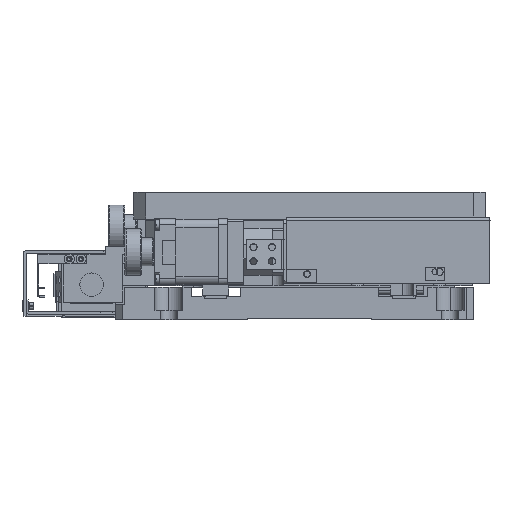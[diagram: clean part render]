
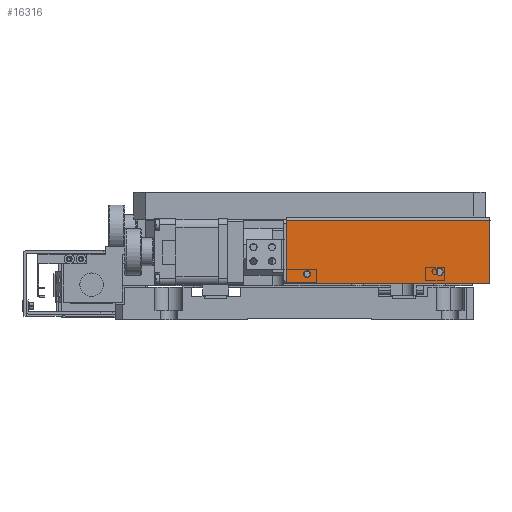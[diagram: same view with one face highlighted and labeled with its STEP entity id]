
A CAD part, left-side view. The second image highlights one B-rep face of the part: STEP entity #16316.
In plain terms, the highlighted planar face has unit normal (-1, 0, 0).
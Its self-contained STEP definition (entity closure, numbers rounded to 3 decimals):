
#1092 = EDGE_CURVE ( 'NONE', #67241, #78028, #25372, .T. ) ;
#2242 = EDGE_CURVE ( 'NONE', #73032, #82582, #55241, .T. ) ;
#2263 = DIRECTION ( 'NONE',  ( 0., 1., 0. ) ) ;
#5345 = DIRECTION ( 'NONE',  ( 0., 0., -1. ) ) ;
#6002 = EDGE_CURVE ( 'NONE', #11899, #73032, #60686, .T. ) ;
#9465 = VERTEX_POINT ( 'NONE', #90381 ) ;
#11603 = DIRECTION ( 'NONE',  ( 0., 1., 0. ) ) ;
#11899 = VERTEX_POINT ( 'NONE', #67564 ) ;
#13078 = ORIENTED_EDGE ( 'NONE', *, *, #6002, .F. ) ;
#15659 = EDGE_CURVE ( 'NONE', #82582, #9465, #28536, .T. ) ;
#16316 = ADVANCED_FACE ( 'NONE', ( #20577, #59064, #97655 ), #77116, .T. ) ;
#18268 = ORIENTED_EDGE ( 'NONE', *, *, #64371, .T. ) ;
#20302 = DIRECTION ( 'NONE',  ( 1., 0., 0. ) ) ;
#20577 = FACE_BOUND ( 'NONE', #35834, .T. ) ;
#21006 = CARTESIAN_POINT ( 'NONE',  ( -43.5, 65.998, 42.5 ) ) ;
#21763 = ORIENTED_EDGE ( 'NONE', *, *, #69604, .T. ) ;
#22756 = CARTESIAN_POINT ( 'NONE',  ( -43.5, -7., 15.5 ) ) ;
#23472 = CARTESIAN_POINT ( 'NONE',  ( -43.5, -7., 43.5 ) ) ;
#25372 = CIRCLE ( 'NONE', #102858, 1.5 ) ;
#26796 = VERTEX_POINT ( 'NONE', #118282 ) ;
#28536 = LINE ( 'NONE', #104980, #99094 ) ;
#29786 = EDGE_CURVE ( 'NONE', #11899, #9465, #115571, .T. ) ;
#30479 = CARTESIAN_POINT ( 'NONE',  ( -43.5, 71., 21. ) ) ;
#35686 = DIRECTION ( 'NONE',  ( 1., 0., 0. ) ) ;
#35834 = EDGE_LOOP ( 'NONE', ( #113684, #68937 ) ) ;
#37367 = EDGE_LOOP ( 'NONE', ( #18268, #21763 ) ) ;
#39125 = AXIS2_PLACEMENT_3D ( 'NONE', #121931, #82091, #54088 ) ;
#39924 = VECTOR ( 'NONE', #5345, 1000. ) ;
#41889 = EDGE_LOOP ( 'NONE', ( #13078, #51379, #116889, #63374 ) ) ;
#44155 = DIRECTION ( 'NONE',  ( 0., 0., -1. ) ) ;
#51379 = ORIENTED_EDGE ( 'NONE', *, *, #29786, .T. ) ;
#54021 = DIRECTION ( 'NONE',  ( -1., 0., 0. ) ) ;
#54088 = DIRECTION ( 'NONE',  ( 0., 0., 1. ) ) ;
#55241 = LINE ( 'NONE', #72050, #61497 ) ;
#57046 = CARTESIAN_POINT ( 'NONE',  ( -43.5, 71., 19.5 ) ) ;
#57671 = DIRECTION ( 'NONE',  ( 0., 0., 1. ) ) ;
#59064 = FACE_OUTER_BOUND ( 'NONE', #41889, .T. ) ;
#60686 = LINE ( 'NONE', #23472, #39924 ) ;
#61497 = VECTOR ( 'NONE', #120619, 1000. ) ;
#62520 = CARTESIAN_POINT ( 'NONE',  ( -43.5, 71., 18. ) ) ;
#63374 = ORIENTED_EDGE ( 'NONE', *, *, #2242, .F. ) ;
#64371 = EDGE_CURVE ( 'NONE', #26796, #78985, #67292, .T. ) ;
#67241 = VERTEX_POINT ( 'NONE', #62520 ) ;
#67292 = CIRCLE ( 'NONE', #122798, 1.5 ) ;
#67564 = CARTESIAN_POINT ( 'NONE',  ( -43.5, -7., 42.5 ) ) ;
#68937 = ORIENTED_EDGE ( 'NONE', *, *, #1092, .T. ) ;
#69604 = EDGE_CURVE ( 'NONE', #78985, #26796, #101195, .T. ) ;
#70227 = CARTESIAN_POINT ( 'NONE',  ( -43.5, -7., 42.5 ) ) ;
#72050 = CARTESIAN_POINT ( 'NONE',  ( -43.5, -7., 15.5 ) ) ;
#73032 = VERTEX_POINT ( 'NONE', #22756 ) ;
#75741 = DIRECTION ( 'NONE',  ( 0., 0., 1. ) ) ;
#77116 = PLANE ( 'NONE',  #120809 ) ;
#78028 = VERTEX_POINT ( 'NONE', #30479 ) ;
#78985 = VERTEX_POINT ( 'NONE', #108950 ) ;
#82091 = DIRECTION ( 'NONE',  ( 1., 0., 0. ) ) ;
#82582 = VERTEX_POINT ( 'NONE', #116066 ) ;
#83316 = AXIS2_PLACEMENT_3D ( 'NONE', #96729, #20302, #2263 ) ;
#90381 = CARTESIAN_POINT ( 'NONE',  ( -43.5, 80., 42.5 ) ) ;
#96729 = CARTESIAN_POINT ( 'NONE',  ( -43.5, 14.5, 20.5 ) ) ;
#97655 = FACE_BOUND ( 'NONE', #37367, .T. ) ;
#99094 = VECTOR ( 'NONE', #75741, 1000. ) ;
#99777 = DIRECTION ( 'NONE',  ( 0., 1., 0. ) ) ;
#101195 = CIRCLE ( 'NONE', #83316, 1.5 ) ;
#102858 = AXIS2_PLACEMENT_3D ( 'NONE', #57046, #105600, #57671 ) ;
#104980 = CARTESIAN_POINT ( 'NONE',  ( -43.5, 80., 15.5 ) ) ;
#105600 = DIRECTION ( 'NONE',  ( 1., 0., 0. ) ) ;
#108950 = CARTESIAN_POINT ( 'NONE',  ( -43.5, 13., 20.5 ) ) ;
#109766 = VECTOR ( 'NONE', #11603, 1000. ) ;
#113684 = ORIENTED_EDGE ( 'NONE', *, *, #116855, .T. ) ;
#115571 = LINE ( 'NONE', #21006, #109766 ) ;
#116066 = CARTESIAN_POINT ( 'NONE',  ( -43.5, 80., 15.5 ) ) ;
#116855 = EDGE_CURVE ( 'NONE', #78028, #67241, #120488, .T. ) ;
#116889 = ORIENTED_EDGE ( 'NONE', *, *, #15659, .F. ) ;
#118282 = CARTESIAN_POINT ( 'NONE',  ( -43.5, 16., 20.5 ) ) ;
#120488 = CIRCLE ( 'NONE', #39125, 1.5 ) ;
#120619 = DIRECTION ( 'NONE',  ( 0., 1., 0. ) ) ;
#120809 = AXIS2_PLACEMENT_3D ( 'NONE', #70227, #54021, #44155 ) ;
#120874 = CARTESIAN_POINT ( 'NONE',  ( -43.5, 14.5, 20.5 ) ) ;
#121931 = CARTESIAN_POINT ( 'NONE',  ( -43.5, 71., 19.5 ) ) ;
#122798 = AXIS2_PLACEMENT_3D ( 'NONE', #120874, #35686, #99777 ) ;
